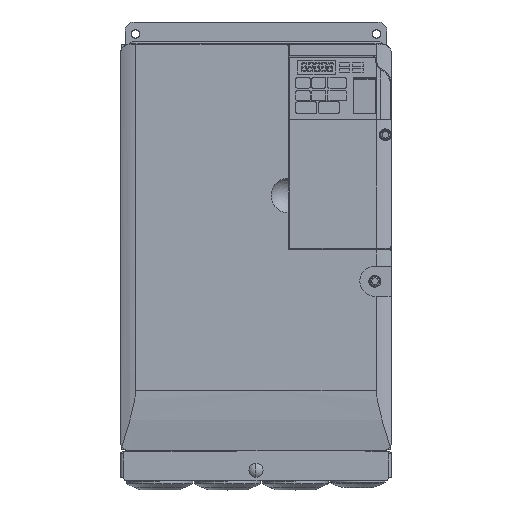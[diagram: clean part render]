
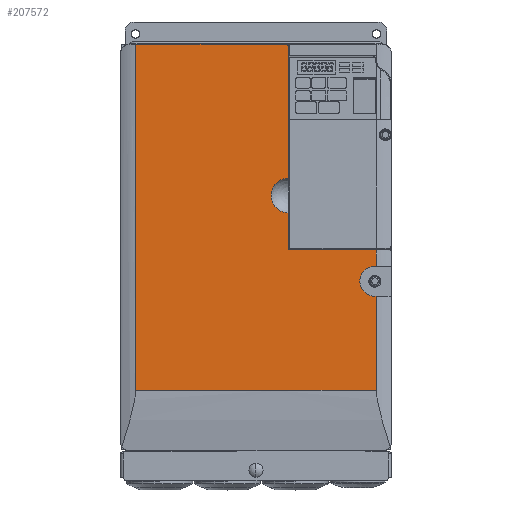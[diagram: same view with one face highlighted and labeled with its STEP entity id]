
A CAD part, top view. The second image highlights one B-rep face of the part: STEP entity #207572.
In plain terms, the highlighted planar face has unit normal (0, 0, 1).
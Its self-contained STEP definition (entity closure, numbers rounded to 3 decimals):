
#206007=DIRECTION('',(-1.,0.,0.));
#206008=VECTOR('',#206007,3.949);
#206009=CARTESIAN_POINT('',(0.799,5.315,
6.417));
#206010=LINE('',#206009,#206008);
#206071=CARTESIAN_POINT('',(0.839,5.276,
6.417));
#206072=CARTESIAN_POINT('',(0.839,5.289,
6.417));
#206073=CARTESIAN_POINT('',(0.829,5.305,
6.417));
#206074=CARTESIAN_POINT('',(0.812,5.315,
6.417));
#206075=CARTESIAN_POINT('',(0.799,5.315,
6.417));
#206077=DIRECTION('',(0.,-1.,0.));
#206078=VECTOR('',#206077,3.463);
#206079=CARTESIAN_POINT('',(0.839,5.276,
6.417));
#206080=LINE('',#206079,#206078);
#206081=CARTESIAN_POINT('',(0.846,1.358,
6.417));
#206082=DIRECTION('',(0.,0.,1.));
#206083=DIRECTION('',(-0.017,1.,0.));
#206084=AXIS2_PLACEMENT_3D('',#206081,#206082,#206083);
#206086=CARTESIAN_POINT('',(0.846,1.358,
6.417));
#206087=DIRECTION('',(0.,0.,1.));
#206088=DIRECTION('',(-1.,0.,0.));
#206089=AXIS2_PLACEMENT_3D('',#206086,#206087,#206088);
#206091=DIRECTION('',(0.,-1.,0.));
#206092=VECTOR('',#206091,0.912);
#206093=CARTESIAN_POINT('',(0.839,0.904,
6.417));
#206094=LINE('',#206093,#206092);
#206095=DIRECTION('',(-1.,0.,0.));
#206096=VECTOR('',#206095,0.039);
#206097=CARTESIAN_POINT('',(3.15,-0.492,
6.417));
#206098=LINE('',#206097,#206096);
#206099=CARTESIAN_POINT('',(3.11,-0.886,
6.417));
#206100=DIRECTION('',(0.,0.,1.));
#206101=DIRECTION('',(0.,1.,0.));
#206102=AXIS2_PLACEMENT_3D('',#206099,#206100,#206101);
#206104=CARTESIAN_POINT('',(3.11,-0.886,
6.417));
#206105=DIRECTION('',(0.,0.,1.));
#206106=DIRECTION('',(-1.,0.,0.));
#206107=AXIS2_PLACEMENT_3D('',#206104,#206105,#206106);
#206109=DIRECTION('',(1.,0.,0.));
#206110=VECTOR('',#206109,0.039);
#206111=CARTESIAN_POINT('',(3.11,-1.28,
6.417));
#206112=LINE('',#206111,#206110);
#206123=CARTESIAN_POINT('',(0.898,-0.067,
6.417));
#206124=CARTESIAN_POINT('',(0.889,-0.067,
6.417));
#206125=CARTESIAN_POINT('',(0.875,-0.064,
6.417));
#206126=CARTESIAN_POINT('',(0.855,-0.051,
6.417));
#206127=CARTESIAN_POINT('',(0.842,-0.031,
6.417));
#206128=CARTESIAN_POINT('',(0.839,-0.016,
6.417));
#206129=CARTESIAN_POINT('',(0.839,-0.008,
6.417));
#206139=DIRECTION('',(-1.,0.,0.));
#206140=VECTOR('',#206139,2.252);
#206141=CARTESIAN_POINT('',(3.15,-0.067,
6.417));
#206142=LINE('',#206141,#206140);
#206155=DIRECTION('',(0.,1.,0.));
#206156=VECTOR('',#206155,0.425);
#206157=CARTESIAN_POINT('',(3.15,-0.492,
6.417));
#206158=LINE('',#206157,#206156);
#206208=DIRECTION('',(0.,1.,0.));
#206209=VECTOR('',#206208,2.461);
#206210=CARTESIAN_POINT('',(3.15,-3.74,
6.417));
#206211=LINE('',#206210,#206209);
#206216=DIRECTION('',(1.,0.,0.));
#206217=VECTOR('',#206216,3.69);
#206218=CARTESIAN_POINT('',(-3.15,-3.74,
6.417));
#206219=LINE('',#206218,#206217);
#206220=DIRECTION('',(1.,0.,0.));
#206221=VECTOR('',#206220,2.609);
#206222=CARTESIAN_POINT('',(0.54,-3.74,
6.417));
#206223=LINE('',#206222,#206221);
#206244=DIRECTION('',(0.,-1.,0.));
#206245=VECTOR('',#206244,9.055);
#206246=CARTESIAN_POINT('',(-3.15,5.315,
6.417));
#206247=LINE('',#206246,#206245);
#206859=CARTESIAN_POINT('',(0.799,5.315,
6.417));
#206860=VERTEX_POINT('',#206859);
#206861=CARTESIAN_POINT('',(-3.15,5.315,
6.417));
#206862=VERTEX_POINT('',#206861);
#206869=CARTESIAN_POINT('',(0.839,5.276,
6.417));
#206870=VERTEX_POINT('',#206869);
#206881=CARTESIAN_POINT('',(0.839,-0.008,
6.417));
#206882=VERTEX_POINT('',#206881);
#206883=CARTESIAN_POINT('',(0.839,0.904,
6.417));
#206884=VERTEX_POINT('',#206883);
#206887=CARTESIAN_POINT('',(0.839,1.812,
6.417));
#206888=VERTEX_POINT('',#206887);
#206889=CARTESIAN_POINT('',(0.392,1.358,
6.417));
#206890=VERTEX_POINT('',#206889);
#206891=VERTEX_POINT('',#206123);
#206892=CARTESIAN_POINT('',(3.15,-0.067,
6.417));
#206893=VERTEX_POINT('',#206892);
#206894=CARTESIAN_POINT('',(3.15,-0.492,
6.417));
#206895=VERTEX_POINT('',#206894);
#206896=CARTESIAN_POINT('',(3.11,-0.492,
6.417));
#206897=VERTEX_POINT('',#206896);
#206898=CARTESIAN_POINT('',(2.717,-0.886,
6.417));
#206899=VERTEX_POINT('',#206898);
#206900=CARTESIAN_POINT('',(3.11,-1.28,
6.417));
#206901=VERTEX_POINT('',#206900);
#206902=CARTESIAN_POINT('',(3.15,-1.28,
6.417));
#206903=VERTEX_POINT('',#206902);
#206904=CARTESIAN_POINT('',(3.15,-3.74,
6.417));
#206905=VERTEX_POINT('',#206904);
#206906=CARTESIAN_POINT('',(0.54,-3.74,
6.417));
#206907=VERTEX_POINT('',#206906);
#206908=CARTESIAN_POINT('',(-3.15,-3.74,
6.417));
#206909=VERTEX_POINT('',#206908);
#207535=CARTESIAN_POINT('',(0.,0.,6.417));
#207536=DIRECTION('',(0.,0.,1.));
#207537=DIRECTION('',(1.,0.,0.));
#207538=AXIS2_PLACEMENT_3D('',#207535,#207536,#207537);
#207539=PLANE('',#207538);
#207540=ORIENTED_EDGE('',*,*,#207529,.F.);
#207541=ORIENTED_EDGE('',*,*,#207517,.T.);
#207543=ORIENTED_EDGE('',*,*,#207542,.T.);
#207545=ORIENTED_EDGE('',*,*,#207544,.T.);
#207546=ORIENTED_EDGE('',*,*,#207511,.T.);
#207548=ORIENTED_EDGE('',*,*,#207547,.F.);
#207550=ORIENTED_EDGE('',*,*,#207549,.F.);
#207552=ORIENTED_EDGE('',*,*,#207551,.F.);
#207554=ORIENTED_EDGE('',*,*,#207553,.T.);
#207556=ORIENTED_EDGE('',*,*,#207555,.T.);
#207558=ORIENTED_EDGE('',*,*,#207557,.T.);
#207560=ORIENTED_EDGE('',*,*,#207559,.T.);
#207562=ORIENTED_EDGE('',*,*,#207561,.F.);
#207564=ORIENTED_EDGE('',*,*,#207563,.F.);
#207566=ORIENTED_EDGE('',*,*,#207565,.F.);
#207568=ORIENTED_EDGE('',*,*,#207567,.F.);
#207569=ORIENTED_EDGE('',*,*,#207437,.F.);
#207570=EDGE_LOOP('',(#207540,#207541,#207543,#207545,#207546,#207548,#207550,
#207552,#207554,#207556,#207558,#207560,#207562,#207564,#207566,#207568,
#207569));
#207571=FACE_OUTER_BOUND('',#207570,.F.);
#207572=ADVANCED_FACE('',(#207571),#207539,.T.);
#206076=B_SPLINE_CURVE_WITH_KNOTS('',3,(#206071,#206072,#206073,#206074,
#206075),.UNSPECIFIED.,.F.,.F.,(4,1,4),(0.,0.5,1.),.UNSPECIFIED.);
#206085=CIRCLE('',#206084,0.454);
#206090=CIRCLE('',#206089,0.454);
#206103=CIRCLE('',#206102,0.394);
#206108=CIRCLE('',#206107,0.394);
#206130=B_SPLINE_CURVE_WITH_KNOTS('',3,(#206123,#206124,#206125,#206126,#206127,
#206128,#206129),.UNSPECIFIED.,.F.,.F.,(4,1,1,1,4),(0.,0.25,0.5,0.75,
1.),.UNSPECIFIED.);
#207437=EDGE_CURVE('',#206860,#206862,#206010,.T.);
#207511=EDGE_CURVE('',#206884,#206882,#206094,.T.);
#207517=EDGE_CURVE('',#206870,#206888,#206080,.T.);
#207529=EDGE_CURVE('',#206870,#206860,#206076,.T.);
#207542=EDGE_CURVE('',#206888,#206890,#206085,.T.);
#207544=EDGE_CURVE('',#206890,#206884,#206090,.T.);
#207547=EDGE_CURVE('',#206891,#206882,#206130,.T.);
#207549=EDGE_CURVE('',#206893,#206891,#206142,.T.);
#207551=EDGE_CURVE('',#206895,#206893,#206158,.T.);
#207553=EDGE_CURVE('',#206895,#206897,#206098,.T.);
#207555=EDGE_CURVE('',#206897,#206899,#206103,.T.);
#207557=EDGE_CURVE('',#206899,#206901,#206108,.T.);
#207559=EDGE_CURVE('',#206901,#206903,#206112,.T.);
#207561=EDGE_CURVE('',#206905,#206903,#206211,.T.);
#207563=EDGE_CURVE('',#206907,#206905,#206223,.T.);
#207565=EDGE_CURVE('',#206909,#206907,#206219,.T.);
#207567=EDGE_CURVE('',#206862,#206909,#206247,.T.);
